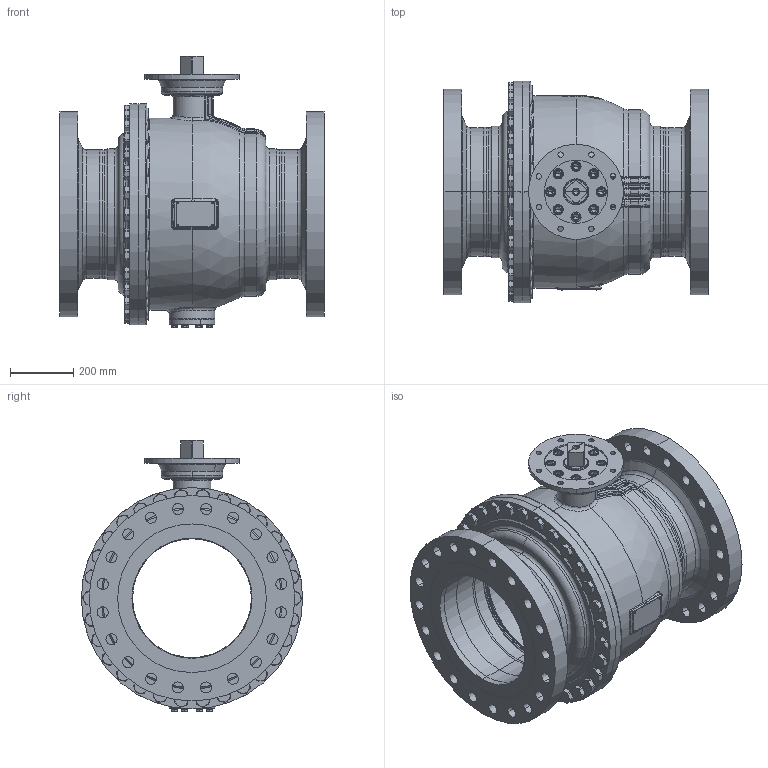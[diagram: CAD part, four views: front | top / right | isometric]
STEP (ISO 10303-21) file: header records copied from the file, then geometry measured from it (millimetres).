
FILE_DESCRIPTION((''),'2;1');
FILE_NAME('KHI-F_400_CL300-F25-4_SW0001','2026-02-05T16:15:22',('fischerkl'),('KLINGER'),'CREO PARAMETRIC BY PTC INC, 2023014','CREO PARAMETRIC BY PTC INC, 2023014','');
FILE_SCHEMA(('CONFIG_CONTROL_DESIGN'));
Products named in the file (1): KHI-F_400_CL300-F25-4_SW0001
Bounding box: 838 x 700 x 858.3 mm (x, y, z)
Volume: 67507050.5 mm3; surface area: 7415698.2 mm2
Topology: 1 solids, 4 shells, 3564 faces, 8982 edges, 5609 vertices
Faces by surface type: plane 1754, cylinder 865, cone 508, torus 307, bspline 99, sphere 31
Entity records: 152556 total; most frequent: CARTESIAN_POINT 67645, ORIENTED_EDGE 17912, DIRECTION 17601, EDGE_CURVE 8956, AXIS2_PLACEMENT_3D 6763, VERTEX_POINT 5609, VECTOR 4075, LINE 4075
